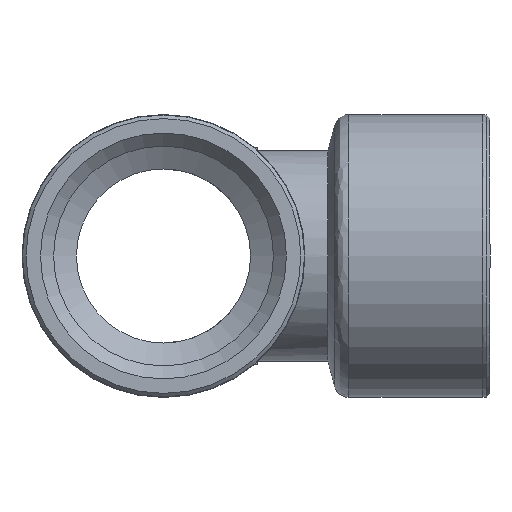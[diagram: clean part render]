
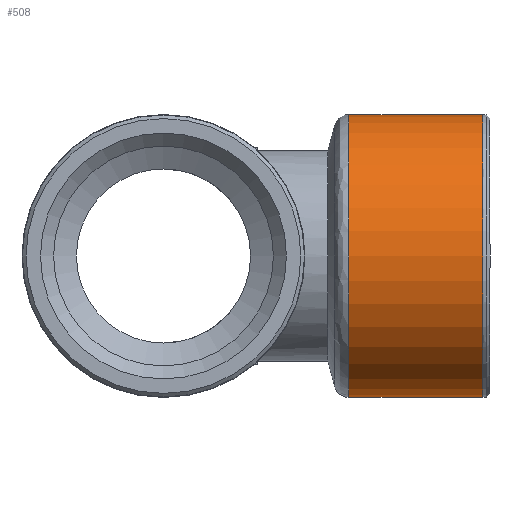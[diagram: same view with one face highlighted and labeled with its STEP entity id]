
A CAD part, left-side view. The second image highlights one B-rep face of the part: STEP entity #508.
In plain terms, the highlighted cylindrical face has radius 19.5 mm (diameter 39 mm), a full revolution.
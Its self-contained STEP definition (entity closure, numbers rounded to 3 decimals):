
#23 = AXIS2_PLACEMENT_3D ( 'NONE', #1062, #1027, #1028 ) ;
#30 = AXIS2_PLACEMENT_3D ( 'NONE', #1094, #1093, #1092 ) ;
#41 = AXIS2_PLACEMENT_3D ( 'NONE', #1174, #1173, #1170 ) ;
#48 = AXIS2_PLACEMENT_3D ( 'NONE', #634, #616, #617 ) ;
#66 = EDGE_CURVE ( 'NONE', #1339, #1249, #361, .T. ) ;
#77 = AXIS2_PLACEMENT_3D ( 'NONE', #1134, #1133, #1132 ) ;
#119 = EDGE_CURVE ( 'NONE', #1397, #1348, #312, .T. ) ;
#136 = EDGE_CURVE ( 'NONE', #1249, #1339, #455, .T. ) ;
#149 = EDGE_CURVE ( 'NONE', #1348, #1397, #441, .T. ) ;
#267 = FACE_OUTER_BOUND ( 'NONE', #1199, .T. ) ;
#290 = EDGE_LOOP ( 'NONE', ( #1341, #1238 ) ) ;
#312 = CIRCLE ( 'NONE', #48, 19.5 ) ;
#361 = CIRCLE ( 'NONE', #77, 19.5 ) ;
#441 = CIRCLE ( 'NONE', #30, 19.5 ) ;
#447 = CYLINDRICAL_SURFACE ( 'NONE', #23, 19.5 ) ;
#452 = FACE_OUTER_BOUND ( 'NONE', #290, .T. ) ;
#455 = CIRCLE ( 'NONE', #41, 19.5 ) ;
#508 = ADVANCED_FACE ( 'NONE', ( #452, #267 ), #447, .T. ) ;
#597 = CARTESIAN_POINT ( 'NONE',  ( 237.395, -49.389, -5.5 ) ) ;
#616 = DIRECTION ( 'NONE',  ( 0., -1., 0. ) ) ;
#617 = DIRECTION ( 'NONE',  ( 1., 0., 0. ) ) ;
#634 = CARTESIAN_POINT ( 'NONE',  ( 237.395, -49.389, -25. ) ) ;
#649 = CARTESIAN_POINT ( 'NONE',  ( 237.395, -49.389, -44.5 ) ) ;
#666 = CARTESIAN_POINT ( 'NONE',  ( 237.395, -30.923, -5.5 ) ) ;
#669 = CARTESIAN_POINT ( 'NONE',  ( 237.395, -30.923, -44.5 ) ) ;
#1027 = DIRECTION ( 'NONE',  ( 0., 1., 0. ) ) ;
#1028 = DIRECTION ( 'NONE',  ( 0., 0., 1. ) ) ;
#1062 = CARTESIAN_POINT ( 'NONE',  ( 237.395, -49.389, -25. ) ) ;
#1092 = DIRECTION ( 'NONE',  ( 1., 0., 0. ) ) ;
#1093 = DIRECTION ( 'NONE',  ( 0., -1., 0. ) ) ;
#1094 = CARTESIAN_POINT ( 'NONE',  ( 237.395, -49.389, -25. ) ) ;
#1132 = DIRECTION ( 'NONE',  ( -1., 0., 0. ) ) ;
#1133 = DIRECTION ( 'NONE',  ( 0., 1., 0. ) ) ;
#1134 = CARTESIAN_POINT ( 'NONE',  ( 237.395, -30.923, -25. ) ) ;
#1170 = DIRECTION ( 'NONE',  ( -1., 0., 0. ) ) ;
#1173 = DIRECTION ( 'NONE',  ( 0., 1., 0. ) ) ;
#1174 = CARTESIAN_POINT ( 'NONE',  ( 237.395, -30.923, -25. ) ) ;
#1199 = EDGE_LOOP ( 'NONE', ( #1234, #1210 ) ) ;
#1210 = ORIENTED_EDGE ( 'NONE', *, *, #66, .F. ) ;
#1234 = ORIENTED_EDGE ( 'NONE', *, *, #136, .F. ) ;
#1238 = ORIENTED_EDGE ( 'NONE', *, *, #149, .F. ) ;
#1249 = VERTEX_POINT ( 'NONE', #666 ) ;
#1339 = VERTEX_POINT ( 'NONE', #669 ) ;
#1341 = ORIENTED_EDGE ( 'NONE', *, *, #119, .F. ) ;
#1348 = VERTEX_POINT ( 'NONE', #649 ) ;
#1397 = VERTEX_POINT ( 'NONE', #597 ) ;
